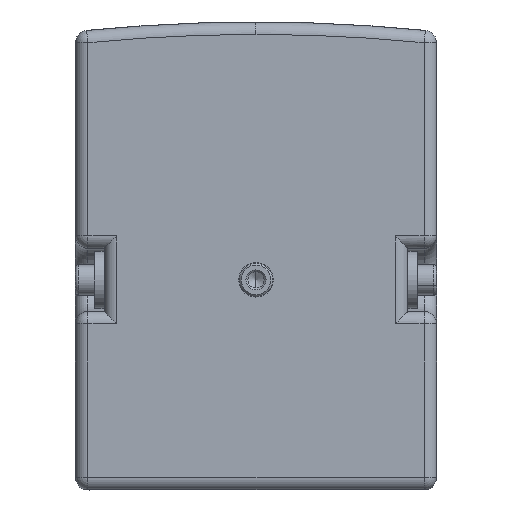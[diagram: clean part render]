
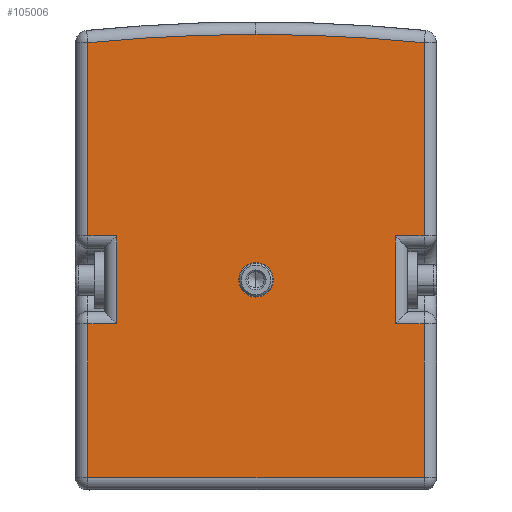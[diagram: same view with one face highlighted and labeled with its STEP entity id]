
A CAD part, front view. The second image highlights one B-rep face of the part: STEP entity #105006.
In plain terms, the highlighted planar face has unit normal (0, -1, 0).
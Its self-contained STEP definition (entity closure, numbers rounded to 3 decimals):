
#12702 = DIRECTION ( 'NONE',  ( 0., 0., -1. ) ) ;
#12804 = CARTESIAN_POINT ( 'NONE',  ( 0., 0., -135. ) ) ;
#12807 = DIRECTION ( 'NONE',  ( 0., -1., 0. ) ) ;
#12977 = DIRECTION ( 'NONE',  ( 0., 0., 1. ) ) ;
#13002 = DIRECTION ( 'NONE',  ( 0., -1., 0. ) ) ;
#13040 = CARTESIAN_POINT ( 'NONE',  ( 0., 0., -895.525 ) ) ;
#25213 = ORIENTED_EDGE ( 'NONE', *, *, #36077, .F. ) ;
#25216 = ORIENTED_EDGE ( 'NONE', *, *, #36108, .T. ) ;
#25218 = ORIENTED_EDGE ( 'NONE', *, *, #36153, .T. ) ;
#25222 = ORIENTED_EDGE ( 'NONE', *, *, #140127, .F. ) ;
#25223 = ORIENTED_EDGE ( 'NONE', *, *, #36123, .T. ) ;
#25227 = ORIENTED_EDGE ( 'NONE', *, *, #36043, .T. ) ;
#25231 = ORIENTED_EDGE ( 'NONE', *, *, #36114, .T. ) ;
#25233 = ORIENTED_EDGE ( 'NONE', *, *, #36168, .T. ) ;
#25242 = ORIENTED_EDGE ( 'NONE', *, *, #36098, .T. ) ;
#25252 = ORIENTED_EDGE ( 'NONE', *, *, #36090, .T. ) ;
#25257 = ORIENTED_EDGE ( 'NONE', *, *, #36105, .T. ) ;
#25268 = ORIENTED_EDGE ( 'NONE', *, *, #140190, .T. ) ;
#25281 = ORIENTED_EDGE ( 'NONE', *, *, #36073, .T. ) ;
#25288 = ORIENTED_EDGE ( 'NONE', *, *, #36179, .T. ) ;
#25290 = ORIENTED_EDGE ( 'NONE', *, *, #36191, .T. ) ;
#36043 = EDGE_CURVE ( 'NONE', #85984, #94632, #92209, .T. ) ;
#36073 = EDGE_CURVE ( 'NONE', #94658, #85998, #92111, .T. ) ;
#36077 = EDGE_CURVE ( 'NONE', #85956, #85889, #92168, .T. ) ;
#36090 = EDGE_CURVE ( 'NONE', #94632, #94640, #92103, .T. ) ;
#36098 = EDGE_CURVE ( 'NONE', #94664, #94661, #92206, .T. ) ;
#36105 = EDGE_CURVE ( 'NONE', #94647, #94664, #92070, .T. ) ;
#36108 = EDGE_CURVE ( 'NONE', #94654, #94633, #92123, .T. ) ;
#36114 = EDGE_CURVE ( 'NONE', #94644, #94658, #92230, .T. ) ;
#36123 = EDGE_CURVE ( 'NONE', #94674, #94654, #92308, .T. ) ;
#36153 = EDGE_CURVE ( 'NONE', #94633, #94673, #92288, .T. ) ;
#36168 = EDGE_CURVE ( 'NONE', #94673, #94644, #92387, .T. ) ;
#36179 = EDGE_CURVE ( 'NONE', #94640, #94647, #92301, .T. ) ;
#36191 = EDGE_CURVE ( 'NONE', #94661, #94674, #92378, .T. ) ;
#47363 = FACE_BOUND ( 'NONE', #122398, .T. ) ;
#47365 = FACE_OUTER_BOUND ( 'NONE', #122343, .T. ) ;
#50720 = CARTESIAN_POINT ( 'NONE',  ( 0., 0., -6.5 ) ) ;
#50741 = CARTESIAN_POINT ( 'NONE',  ( 0., 0., -144. ) ) ;
#50754 = CARTESIAN_POINT ( 'NONE',  ( 0., 0., -126. ) ) ;
#50764 = CARTESIAN_POINT ( 'NONE',  ( -88., 0., -10.866 ) ) ;
#79511 = AXIS2_PLACEMENT_3D ( 'NONE', #117943, #117959, #117970 ) ;
#81095 = CARTESIAN_POINT ( 'NONE',  ( -88., 0., -238.5 ) ) ;
#81124 = DIRECTION ( 'NONE',  ( 0., 0., -1. ) ) ;
#81154 = CARTESIAN_POINT ( 'NONE',  ( 0., 0., -895.525 ) ) ;
#81156 = CARTESIAN_POINT ( 'NONE',  ( 0., 0., -135. ) ) ;
#81179 = DIRECTION ( 'NONE',  ( 0., 0., 1. ) ) ;
#81218 = DIRECTION ( 'NONE',  ( 0., 0., -1. ) ) ;
#81241 = DIRECTION ( 'NONE',  ( 0., -1., 0. ) ) ;
#81254 = DIRECTION ( 'NONE',  ( 0., -1., 0. ) ) ;
#81274 = DIRECTION ( 'NONE',  ( -1., 0., 0. ) ) ;
#81278 = CARTESIAN_POINT ( 'NONE',  ( -88., 0., -158. ) ) ;
#81282 = CARTESIAN_POINT ( 'NONE',  ( -88., 0., -112. ) ) ;
#81302 = DIRECTION ( 'NONE',  ( -1., 0., 0. ) ) ;
#81322 = DIRECTION ( 'NONE',  ( 1., 0., 0. ) ) ;
#81332 = CARTESIAN_POINT ( 'NONE',  ( 88., 0., -238.5 ) ) ;
#81341 = CARTESIAN_POINT ( 'NONE',  ( -88., 0., -112. ) ) ;
#81342 = CARTESIAN_POINT ( 'NONE',  ( 73., 0., -158. ) ) ;
#81352 = DIRECTION ( 'NONE',  ( 0., 0., -1. ) ) ;
#81359 = CARTESIAN_POINT ( 'NONE',  ( -73., 0., -112. ) ) ;
#81360 = CARTESIAN_POINT ( 'NONE',  ( -88., 0., -238.5 ) ) ;
#81361 = CARTESIAN_POINT ( 'NONE',  ( 88., 0., -112. ) ) ;
#81362 = CARTESIAN_POINT ( 'NONE',  ( -88., 0., -158. ) ) ;
#81364 = DIRECTION ( 'NONE',  ( 0., 0., 1. ) ) ;
#81365 = CARTESIAN_POINT ( 'NONE',  ( -88., 0., -238.5 ) ) ;
#81368 = CARTESIAN_POINT ( 'NONE',  ( 88., 0., -238.5 ) ) ;
#81425 = CARTESIAN_POINT ( 'NONE',  ( -88., 0., -158. ) ) ;
#81430 = CARTESIAN_POINT ( 'NONE',  ( -73., 0., -158. ) ) ;
#81439 = CARTESIAN_POINT ( 'NONE',  ( 88., 0., -10.866 ) ) ;
#81454 = DIRECTION ( 'NONE',  ( 0., 0., 1. ) ) ;
#81460 = CARTESIAN_POINT ( 'NONE',  ( 88., 0., -158. ) ) ;
#81470 = CARTESIAN_POINT ( 'NONE',  ( 73., 0., -112. ) ) ;
#81477 = CARTESIAN_POINT ( 'NONE',  ( 88., 0., -238.5 ) ) ;
#81492 = CARTESIAN_POINT ( 'NONE',  ( -88., 0., -112. ) ) ;
#81495 = DIRECTION ( 'NONE',  ( 1., 0., 0. ) ) ;
#81505 = DIRECTION ( 'NONE',  ( 0., 0., -1. ) ) ;
#81525 = CARTESIAN_POINT ( 'NONE',  ( 73., 0., -238.5 ) ) ;
#81566 = CARTESIAN_POINT ( 'NONE',  ( -73., 0., -238.5 ) ) ;
#81587 = DIRECTION ( 'NONE',  ( 0., 0., 1. ) ) ;
#81644 = DIRECTION ( 'NONE',  ( 1., 0., 0. ) ) ;
#81678 = CARTESIAN_POINT ( 'NONE',  ( -88., 0., -238.5 ) ) ;
#85889 = VERTEX_POINT ( 'NONE', #50754 ) ;
#85956 = VERTEX_POINT ( 'NONE', #50741 ) ;
#85984 = VERTEX_POINT ( 'NONE', #50764 ) ;
#85998 = VERTEX_POINT ( 'NONE', #50720 ) ;
#92070 = LINE ( 'NONE', #81278, #92120 ) ;
#92077 = VECTOR ( 'NONE', #81352, 1000. ) ;
#92103 = LINE ( 'NONE', #81282, #92105 ) ;
#92105 = VECTOR ( 'NONE', #81322, 1000. ) ;
#92111 = CIRCLE ( 'NONE', #106961, 889.025 ) ;
#92120 = VECTOR ( 'NONE', #81274, 1000. ) ;
#92123 = LINE ( 'NONE', #81362, #92134 ) ;
#92134 = VECTOR ( 'NONE', #81302, 1000. ) ;
#92168 = CIRCLE ( 'NONE', #106982, 9. ) ;
#92177 = VECTOR ( 'NONE', #81124, 1000. ) ;
#92206 = LINE ( 'NONE', #81360, #92077 ) ;
#92209 = LINE ( 'NONE', #81095, #92177 ) ;
#92230 = LINE ( 'NONE', #81332, #92337 ) ;
#92237 = VECTOR ( 'NONE', #81495, 1000. ) ;
#92267 = VECTOR ( 'NONE', #81454, 1000. ) ;
#92288 = LINE ( 'NONE', #81525, #92339 ) ;
#92301 = LINE ( 'NONE', #81566, #92353 ) ;
#92308 = LINE ( 'NONE', #81477, #92267 ) ;
#92337 = VECTOR ( 'NONE', #81364, 1000. ) ;
#92339 = VECTOR ( 'NONE', #81587, 1000. ) ;
#92353 = VECTOR ( 'NONE', #81505, 1000. ) ;
#92378 = LINE ( 'NONE', #81678, #92398 ) ;
#92387 = LINE ( 'NONE', #81492, #92237 ) ;
#92398 = VECTOR ( 'NONE', #81644, 1000. ) ;
#94632 = VERTEX_POINT ( 'NONE', #81341 ) ;
#94633 = VERTEX_POINT ( 'NONE', #81342 ) ;
#94640 = VERTEX_POINT ( 'NONE', #81359 ) ;
#94644 = VERTEX_POINT ( 'NONE', #81361 ) ;
#94647 = VERTEX_POINT ( 'NONE', #81430 ) ;
#94654 = VERTEX_POINT ( 'NONE', #81460 ) ;
#94658 = VERTEX_POINT ( 'NONE', #81439 ) ;
#94661 = VERTEX_POINT ( 'NONE', #81365 ) ;
#94664 = VERTEX_POINT ( 'NONE', #81425 ) ;
#94673 = VERTEX_POINT ( 'NONE', #81470 ) ;
#94674 = VERTEX_POINT ( 'NONE', #81368 ) ;
#105006 = ADVANCED_FACE ( 'NONE', ( #47363, #47365 ), #118040, .F. ) ;
#106961 = AXIS2_PLACEMENT_3D ( 'NONE', #81154, #81241, #81179 ) ;
#106982 = AXIS2_PLACEMENT_3D ( 'NONE', #81156, #81254, #81218 ) ;
#117943 = CARTESIAN_POINT ( 'NONE',  ( -88., 0., -238.5 ) ) ;
#117959 = DIRECTION ( 'NONE',  ( 0., 1., 0. ) ) ;
#117970 = DIRECTION ( 'NONE',  ( 0., 0., 1. ) ) ;
#118040 = PLANE ( 'NONE',  #79511 ) ;
#122343 = EDGE_LOOP ( 'NONE', ( #25223, #25216, #25218, #25233, #25231, #25281, #25268, #25227, #25252, #25288, #25257, #25242, #25290 ) ) ;
#122398 = EDGE_LOOP ( 'NONE', ( #25213, #25222 ) ) ;
#140127 = EDGE_CURVE ( 'NONE', #85889, #85956, #154744, .T. ) ;
#140190 = EDGE_CURVE ( 'NONE', #85998, #85984, #154795, .T. ) ;
#153180 = AXIS2_PLACEMENT_3D ( 'NONE', #12804, #12807, #12702 ) ;
#153282 = AXIS2_PLACEMENT_3D ( 'NONE', #13040, #13002, #12977 ) ;
#154744 = CIRCLE ( 'NONE', #153180, 9. ) ;
#154795 = CIRCLE ( 'NONE', #153282, 889.025 ) ;
